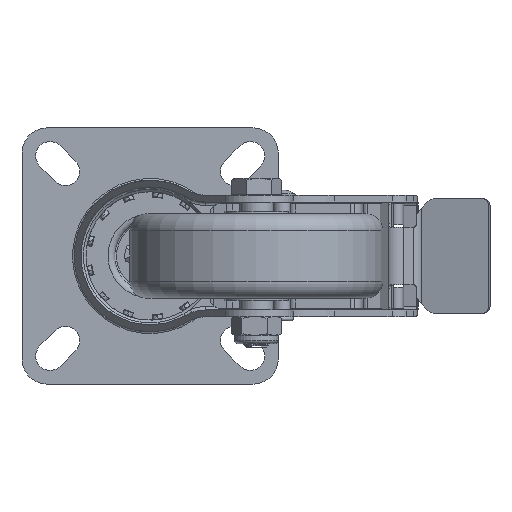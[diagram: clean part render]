
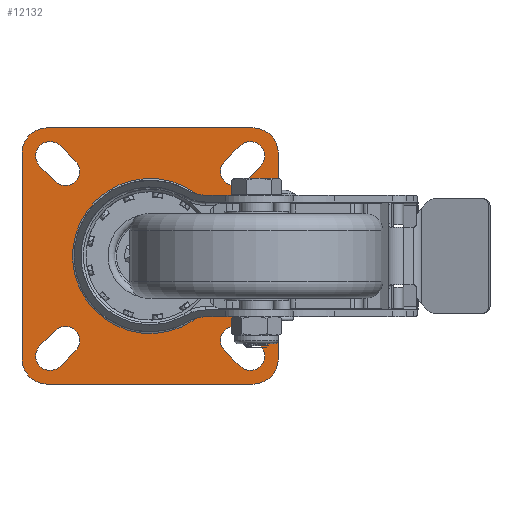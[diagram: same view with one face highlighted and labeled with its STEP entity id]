
A CAD part, front view. The second image highlights one B-rep face of the part: STEP entity #12132.
In plain terms, the highlighted planar face has unit normal (0, -1, 0).
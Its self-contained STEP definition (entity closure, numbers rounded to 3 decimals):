
#547=FACE_BOUND('',#3651,.T.);
#548=FACE_BOUND('',#3652,.T.);
#549=FACE_BOUND('',#3653,.T.);
#550=FACE_BOUND('',#3654,.T.);
#551=FACE_BOUND('',#3655,.T.);
#643=PLANE('',#13056);
#1306=LINE('',#18696,#2071);
#1307=LINE('',#18700,#2072);
#1308=LINE('',#18704,#2073);
#1309=LINE('',#18707,#2074);
#1310=LINE('',#18711,#2075);
#1311=LINE('',#18712,#2076);
#1312=LINE('',#18714,#2077);
#1313=LINE('',#18717,#2078);
#1314=LINE('',#18721,#2079);
#1315=LINE('',#18722,#2080);
#1316=LINE('',#18724,#2081);
#1317=LINE('',#18727,#2082);
#2071=VECTOR('',#14732,1000.);
#2072=VECTOR('',#14735,1000.);
#2073=VECTOR('',#14738,1000.);
#2074=VECTOR('',#14741,1000.);
#2075=VECTOR('',#14744,1000.);
#2076=VECTOR('',#14745,1000.);
#2077=VECTOR('',#14746,1000.);
#2078=VECTOR('',#14749,1000.);
#2079=VECTOR('',#14752,1000.);
#2080=VECTOR('',#14753,1000.);
#2081=VECTOR('',#14754,1000.);
#2082=VECTOR('',#14757,1000.);
#2951=FACE_OUTER_BOUND('',#3650,.T.);
#3650=EDGE_LOOP('',(#8409,#8410,#8411,#8412,#8413,#8414,#8415,#8416));
#3651=EDGE_LOOP('',(#8417,#8418,#8419,#8420));
#3652=EDGE_LOOP('',(#8421,#8422,#8423,#8424));
#3653=EDGE_LOOP('',(#8425));
#3654=EDGE_LOOP('',(#8426,#8427,#8428,#8429));
#3655=EDGE_LOOP('',(#8430,#8431,#8432,#8433));
#4390=CIRCLE('',#13016,15.021);
#4405=CIRCLE('',#13037,4.25);
#4407=CIRCLE('',#13040,4.25);
#4409=CIRCLE('',#13043,4.25);
#4411=CIRCLE('',#13046,4.25);
#4420=CIRCLE('',#13057,7.5);
#4421=CIRCLE('',#13058,7.5);
#4422=CIRCLE('',#13059,7.5);
#4423=CIRCLE('',#13060,7.5);
#4424=CIRCLE('',#13061,4.25);
#4425=CIRCLE('',#13062,4.25);
#4426=CIRCLE('',#13063,4.25);
#4427=CIRCLE('',#13064,4.25);
#5014=VERTEX_POINT('',#18585);
#5027=VERTEX_POINT('',#18622);
#5028=VERTEX_POINT('',#18624);
#5031=VERTEX_POINT('',#18631);
#5032=VERTEX_POINT('',#18633);
#5035=VERTEX_POINT('',#18640);
#5036=VERTEX_POINT('',#18642);
#5039=VERTEX_POINT('',#18649);
#5040=VERTEX_POINT('',#18651);
#5057=VERTEX_POINT('',#18692);
#5058=VERTEX_POINT('',#18693);
#5059=VERTEX_POINT('',#18695);
#5060=VERTEX_POINT('',#18697);
#5061=VERTEX_POINT('',#18699);
#5062=VERTEX_POINT('',#18701);
#5063=VERTEX_POINT('',#18703);
#5064=VERTEX_POINT('',#18705);
#5065=VERTEX_POINT('',#18708);
#5066=VERTEX_POINT('',#18709);
#5067=VERTEX_POINT('',#18713);
#5068=VERTEX_POINT('',#18715);
#5069=VERTEX_POINT('',#18718);
#5070=VERTEX_POINT('',#18719);
#5071=VERTEX_POINT('',#18723);
#5072=VERTEX_POINT('',#18725);
#6266=EDGE_CURVE('',#5014,#5014,#4390,.T.);
#6285=EDGE_CURVE('',#5028,#5027,#4405,.T.);
#6289=EDGE_CURVE('',#5032,#5031,#4407,.T.);
#6293=EDGE_CURVE('',#5036,#5035,#4409,.T.);
#6297=EDGE_CURVE('',#5040,#5039,#4411,.T.);
#6319=EDGE_CURVE('',#5057,#5058,#4420,.T.);
#6320=EDGE_CURVE('',#5059,#5057,#1306,.T.);
#6321=EDGE_CURVE('',#5060,#5059,#4421,.T.);
#6322=EDGE_CURVE('',#5061,#5060,#1307,.T.);
#6323=EDGE_CURVE('',#5062,#5061,#4422,.T.);
#6324=EDGE_CURVE('',#5063,#5062,#1308,.T.);
#6325=EDGE_CURVE('',#5064,#5063,#4423,.T.);
#6326=EDGE_CURVE('',#5058,#5064,#1309,.T.);
#6327=EDGE_CURVE('',#5065,#5066,#4424,.T.);
#6328=EDGE_CURVE('',#5066,#5036,#1310,.T.);
#6329=EDGE_CURVE('',#5035,#5065,#1311,.T.);
#6330=EDGE_CURVE('',#5027,#5067,#1312,.T.);
#6331=EDGE_CURVE('',#5067,#5068,#4425,.T.);
#6332=EDGE_CURVE('',#5068,#5028,#1313,.T.);
#6333=EDGE_CURVE('',#5069,#5070,#4426,.T.);
#6334=EDGE_CURVE('',#5070,#5032,#1314,.T.);
#6335=EDGE_CURVE('',#5031,#5069,#1315,.T.);
#6336=EDGE_CURVE('',#5039,#5071,#1316,.T.);
#6337=EDGE_CURVE('',#5071,#5072,#4427,.T.);
#6338=EDGE_CURVE('',#5072,#5040,#1317,.T.);
#8409=ORIENTED_EDGE('',*,*,#6319,.F.);
#8410=ORIENTED_EDGE('',*,*,#6320,.F.);
#8411=ORIENTED_EDGE('',*,*,#6321,.F.);
#8412=ORIENTED_EDGE('',*,*,#6322,.F.);
#8413=ORIENTED_EDGE('',*,*,#6323,.F.);
#8414=ORIENTED_EDGE('',*,*,#6324,.F.);
#8415=ORIENTED_EDGE('',*,*,#6325,.F.);
#8416=ORIENTED_EDGE('',*,*,#6326,.F.);
#8417=ORIENTED_EDGE('',*,*,#6327,.T.);
#8418=ORIENTED_EDGE('',*,*,#6328,.T.);
#8419=ORIENTED_EDGE('',*,*,#6293,.T.);
#8420=ORIENTED_EDGE('',*,*,#6329,.T.);
#8421=ORIENTED_EDGE('',*,*,#6285,.T.);
#8422=ORIENTED_EDGE('',*,*,#6330,.T.);
#8423=ORIENTED_EDGE('',*,*,#6331,.T.);
#8424=ORIENTED_EDGE('',*,*,#6332,.T.);
#8425=ORIENTED_EDGE('',*,*,#6266,.T.);
#8426=ORIENTED_EDGE('',*,*,#6333,.T.);
#8427=ORIENTED_EDGE('',*,*,#6334,.T.);
#8428=ORIENTED_EDGE('',*,*,#6289,.T.);
#8429=ORIENTED_EDGE('',*,*,#6335,.T.);
#8430=ORIENTED_EDGE('',*,*,#6297,.T.);
#8431=ORIENTED_EDGE('',*,*,#6336,.T.);
#8432=ORIENTED_EDGE('',*,*,#6337,.T.);
#8433=ORIENTED_EDGE('',*,*,#6338,.T.);
#12132=ADVANCED_FACE('',(#2951,#547,#548,#549,#550,#551),#643,.F.);
#13016=AXIS2_PLACEMENT_3D('',#18586,#14625,#14626);
#13037=AXIS2_PLACEMENT_3D('',#18625,#14671,#14672);
#13040=AXIS2_PLACEMENT_3D('',#18634,#14679,#14680);
#13043=AXIS2_PLACEMENT_3D('',#18643,#14687,#14688);
#13046=AXIS2_PLACEMENT_3D('',#18652,#14695,#14696);
#13056=AXIS2_PLACEMENT_3D('',#18691,#14728,#14729);
#13057=AXIS2_PLACEMENT_3D('',#18694,#14730,#14731);
#13058=AXIS2_PLACEMENT_3D('',#18698,#14733,#14734);
#13059=AXIS2_PLACEMENT_3D('',#18702,#14736,#14737);
#13060=AXIS2_PLACEMENT_3D('',#18706,#14739,#14740);
#13061=AXIS2_PLACEMENT_3D('',#18710,#14742,#14743);
#13062=AXIS2_PLACEMENT_3D('',#18716,#14747,#14748);
#13063=AXIS2_PLACEMENT_3D('',#18720,#14750,#14751);
#13064=AXIS2_PLACEMENT_3D('',#18726,#14755,#14756);
#14625=DIRECTION('center_axis',(0.,1.,0.));
#14626=DIRECTION('ref_axis',(0.,0.,1.));
#14671=DIRECTION('center_axis',(0.,1.,0.));
#14672=DIRECTION('ref_axis',(0.,0.,-1.));
#14679=DIRECTION('center_axis',(0.,1.,0.));
#14680=DIRECTION('ref_axis',(0.,0.,1.));
#14687=DIRECTION('center_axis',(0.,1.,0.));
#14688=DIRECTION('ref_axis',(0.,0.,-1.));
#14695=DIRECTION('center_axis',(0.,1.,0.));
#14696=DIRECTION('ref_axis',(0.,0.,1.));
#14728=DIRECTION('center_axis',(0.,1.,0.));
#14729=DIRECTION('ref_axis',(0.,0.,1.));
#14730=DIRECTION('center_axis',(0.,1.,0.));
#14731=DIRECTION('ref_axis',(0.,0.,1.));
#14732=DIRECTION('',(0.,0.,1.));
#14733=DIRECTION('center_axis',(0.,1.,0.));
#14734=DIRECTION('ref_axis',(0.,0.,1.));
#14735=DIRECTION('',(-1.,0.,0.));
#14736=DIRECTION('center_axis',(0.,1.,0.));
#14737=DIRECTION('ref_axis',(0.,0.,-1.));
#14738=DIRECTION('',(0.,0.,-1.));
#14739=DIRECTION('center_axis',(0.,1.,0.));
#14740=DIRECTION('ref_axis',(0.,0.,1.));
#14741=DIRECTION('',(1.,0.,0.));
#14742=DIRECTION('center_axis',(0.,1.,0.));
#14743=DIRECTION('ref_axis',(0.,0.,-1.));
#14744=DIRECTION('',(-0.707,0.,-0.707));
#14745=DIRECTION('',(0.707,0.,0.707));
#14746=DIRECTION('',(-0.707,0.,0.707));
#14747=DIRECTION('center_axis',(0.,1.,0.));
#14748=DIRECTION('ref_axis',(0.,0.,-1.));
#14749=DIRECTION('',(0.707,0.,-0.707));
#14750=DIRECTION('center_axis',(0.,1.,0.));
#14751=DIRECTION('ref_axis',(0.,0.,1.));
#14752=DIRECTION('',(0.707,0.,-0.707));
#14753=DIRECTION('',(-0.707,0.,0.707));
#14754=DIRECTION('',(0.707,0.,0.707));
#14755=DIRECTION('center_axis',(0.,1.,0.));
#14756=DIRECTION('ref_axis',(0.,0.,1.));
#14757=DIRECTION('',(-0.707,0.,-0.707));
#18585=CARTESIAN_POINT('',(122.199,3.803,-193.275));
#18586=CARTESIAN_POINT('Origin',(122.199,3.803,-178.254));
#18622=CARTESIAN_POINT('',(148.892,3.803,-210.958));
#18624=CARTESIAN_POINT('',(154.903,3.803,-204.947));
#18625=CARTESIAN_POINT('Origin',(151.898,3.803,-207.952));
#18631=CARTESIAN_POINT('',(94.092,3.803,-156.157));
#18633=CARTESIAN_POINT('',(100.102,3.803,-150.146));
#18634=CARTESIAN_POINT('Origin',(97.097,3.803,-153.152));
#18640=CARTESIAN_POINT('',(144.296,3.803,-150.146));
#18642=CARTESIAN_POINT('',(150.307,3.803,-156.157));
#18643=CARTESIAN_POINT('Origin',(147.301,3.803,-153.152));
#18649=CARTESIAN_POINT('',(89.496,3.803,-204.947));
#18651=CARTESIAN_POINT('',(95.506,3.803,-210.958));
#18652=CARTESIAN_POINT('Origin',(92.501,3.803,-207.952));
#18691=CARTESIAN_POINT('Origin',(91.699,3.803,-147.754));
#18692=CARTESIAN_POINT('',(84.199,3.803,-147.754));
#18693=CARTESIAN_POINT('',(91.699,3.803,-140.254));
#18694=CARTESIAN_POINT('Origin',(91.699,3.803,-147.754));
#18695=CARTESIAN_POINT('',(84.199,3.803,-208.754));
#18696=CARTESIAN_POINT('',(84.199,3.803,-208.754));
#18697=CARTESIAN_POINT('',(91.699,3.803,-216.254));
#18698=CARTESIAN_POINT('Origin',(91.699,3.803,-208.754));
#18699=CARTESIAN_POINT('',(152.699,3.803,-216.254));
#18700=CARTESIAN_POINT('',(91.699,3.803,-216.254));
#18701=CARTESIAN_POINT('',(160.199,3.803,-208.754));
#18702=CARTESIAN_POINT('Origin',(152.699,3.803,-208.754));
#18703=CARTESIAN_POINT('',(160.199,3.803,-147.754));
#18704=CARTESIAN_POINT('',(160.199,3.803,-208.754));
#18705=CARTESIAN_POINT('',(152.699,3.803,-140.254));
#18706=CARTESIAN_POINT('Origin',(152.699,3.803,-147.754));
#18707=CARTESIAN_POINT('',(91.699,3.803,-140.254));
#18708=CARTESIAN_POINT('',(148.892,3.803,-145.55));
#18709=CARTESIAN_POINT('',(154.903,3.803,-151.561));
#18710=CARTESIAN_POINT('Origin',(151.898,3.803,-148.555));
#18711=CARTESIAN_POINT('',(154.903,3.803,-151.561));
#18712=CARTESIAN_POINT('',(148.892,3.803,-145.55));
#18713=CARTESIAN_POINT('',(144.296,3.803,-206.361));
#18714=CARTESIAN_POINT('',(148.892,3.803,-210.958));
#18715=CARTESIAN_POINT('',(150.307,3.803,-200.351));
#18716=CARTESIAN_POINT('Origin',(147.301,3.803,-203.356));
#18717=CARTESIAN_POINT('',(154.903,3.803,-204.947));
#18718=CARTESIAN_POINT('',(89.496,3.803,-151.561));
#18719=CARTESIAN_POINT('',(95.506,3.803,-145.55));
#18720=CARTESIAN_POINT('Origin',(92.501,3.803,-148.555));
#18721=CARTESIAN_POINT('',(95.506,3.803,-145.55));
#18722=CARTESIAN_POINT('',(89.496,3.803,-151.561));
#18723=CARTESIAN_POINT('',(94.092,3.803,-200.351));
#18724=CARTESIAN_POINT('',(89.496,3.803,-204.947));
#18725=CARTESIAN_POINT('',(100.102,3.803,-206.361));
#18726=CARTESIAN_POINT('Origin',(97.097,3.803,-203.356));
#18727=CARTESIAN_POINT('',(95.506,3.803,-210.958));
